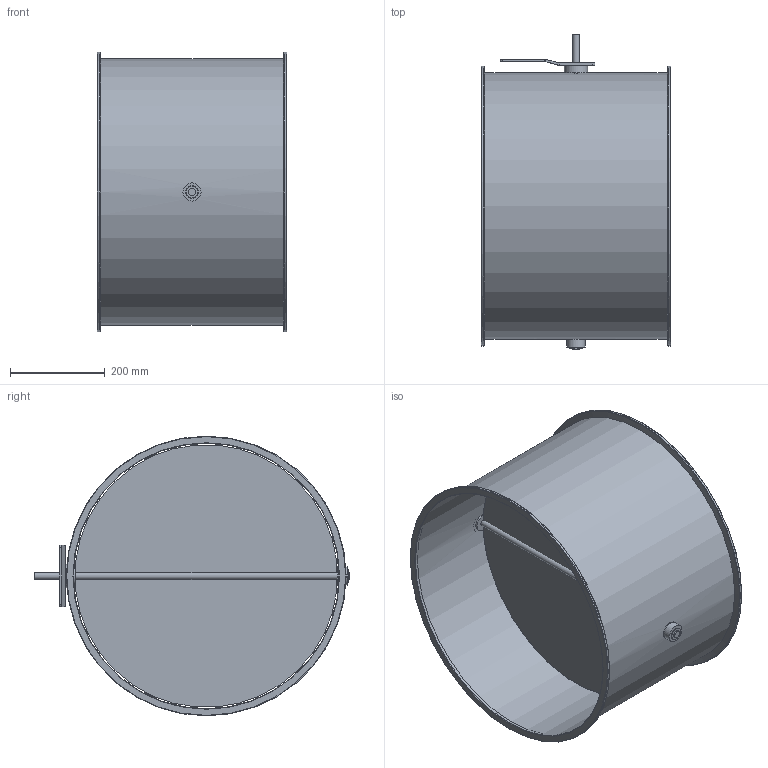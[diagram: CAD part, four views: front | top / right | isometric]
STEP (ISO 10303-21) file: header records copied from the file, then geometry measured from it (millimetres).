
FILE_DESCRIPTION(/* description */ (''),/* implementation_level */ '2;1');
FILE_NAME(/* name */ 'EA111-80B__560_L400_Belimo_Typ_GM.stp',/* time_stamp */ '2017-12-07T10:53:23+01:00',/* author */ (''),/* organization */ (''),/* preprocessor_version */ 'ST-DEVELOPER v11',/* originating_system */ 'SIEMENS UGS NX 6.0',/* authorisation */ '');
FILE_SCHEMA (('CONFIG_CONTROL_DESIGN'));
Length unit declared in the file: millimetre
Products named in the file (1): gars5544kx91
Bounding box: 400 x 664 x 590 mm (x, y, z)
Volume: 1641266.9 mm3; surface area: 2094995 mm2
Topology: 8 solids, 8 shells, 78 faces, 164 edges, 104 vertices
Faces by surface type: plane 36, cylinder 34, torus 6, cone 2
Full cylindrical faces by diameter (mm): 6.1 x6, 15 x3, 25 x3, 25.85 x2, 26 x2, 38 x3, 49 x1, 560 x1, 562 x1, 590 x2
Entity records: 2028 total; most frequent: CARTESIAN_POINT 363, DIRECTION 346, ORIENTED_EDGE 244, AXIS2_PLACEMENT_3D 149, EDGE_LOOP 140, EDGE_CURVE 122, FACE_BOUND 110, VERTEX_POINT 94
